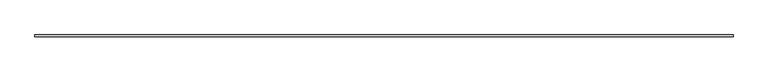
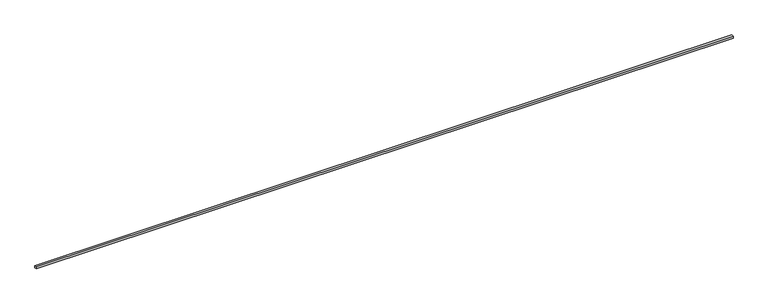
"""IFC4 building model written with IfcOpenShell, lengths in millimetres: light fixture geometry, AI_Luminaire_CONCEPT S_Linéaire : CONCEPTION S."""

from ifc_helpers import new_model, si_unit, frame, origin, place, context, project, spatial, polyline, outline, extrude, source, transform, mapped, element, save


def light_fixture_5d545681(model_context):
    return source(origin(), model_context, "Body", "SweptSolid", [
        extrude(outline(polyline([(9302.2437326, -27.5), (-9302.2437326, -27.5), (-9302.2437326, 27.5), (9302.2437326, 27.5), (9302.2437326, -27.5)])), frame((0.0, 0.0, -56.0), z_axis=(0.0, 0.0, 1.0), x_axis=(1.0, 0.0, 0.0)), (0.0, 0.0, 1.0), 56.0),
    ])


if __name__ == "__main__":
    model = new_model("IFC4")
    model_context = context("Model", 3, world=origin())
    ifc_project = project(units=[si_unit("LENGTHUNIT", "METRE", prefix="MILLI")], contexts=[model_context])
    site = spatial("IfcSite", under=ifc_project)
    building = spatial("IfcBuilding", under=site)
    placement = place(None, origin())
    light_fixture_shape = light_fixture_5d545681(model_context)
    element("IfcLightFixture", 1, ObjectType="AI_Luminaire_CONCEPT S_Linéaire : CONCEPTION S", at=placement, inside=building, context=model_context, shape_type="MappedRepresentation", body=[
        mapped(light_fixture_shape, transform((0.0, 0.0, 0.0), x_axis=(1.0, 0.0, 0.0), y_axis=(0.0, 1.0, 0.0), z_axis=(0.0, 0.0, 1.0))),
    ])
    save(model, "model.ifc")
